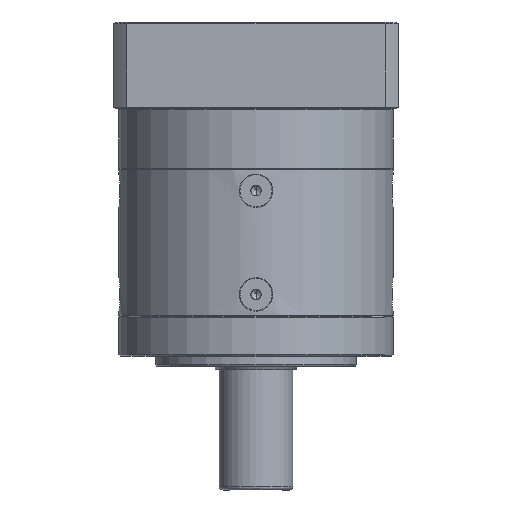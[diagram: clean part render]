
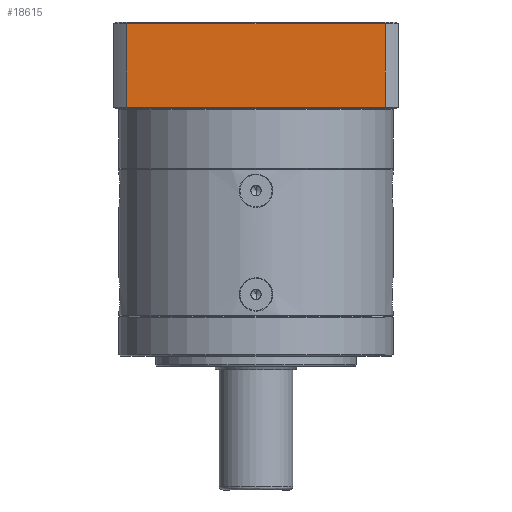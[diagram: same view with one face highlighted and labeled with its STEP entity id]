
A CAD part, front view. The second image highlights one B-rep face of the part: STEP entity #18615.
In plain terms, the highlighted planar face has unit normal (0, -1, 0).
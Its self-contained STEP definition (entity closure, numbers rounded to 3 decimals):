
#2742 = CARTESIAN_POINT ( 'NONE',  ( 24.866, -38.488, 188.002 ) ) ;
#4730 = LINE ( 'NONE', #101439, #106700 ) ;
#6417 = DIRECTION ( 'NONE',  ( 0., 0., 1. ) ) ;
#8384 = ORIENTED_EDGE ( 'NONE', *, *, #24053, .F. ) ;
#13269 = VERTEX_POINT ( 'NONE', #78962 ) ;
#15465 = AXIS2_PLACEMENT_3D ( 'NONE', #38570, #107700, #48467 ) ;
#15597 = FACE_OUTER_BOUND ( 'NONE', #123000, .T. ) ;
#18086 = LINE ( 'NONE', #115214, #67458 ) ;
#18615 = ADVANCED_FACE ( 'NONE', ( #15597 ), #127087, .F. ) ;
#23660 = EDGE_CURVE ( 'NONE', #39157, #33812, #57947, .T. ) ;
#24053 = EDGE_CURVE ( 'NONE', #33812, #13269, #105738, .T. ) ;
#26560 = CARTESIAN_POINT ( 'NONE',  ( 24.866, -38.488, 187.502 ) ) ;
#27389 = DIRECTION ( 'NONE',  ( 1., 0., 0. ) ) ;
#30533 = CARTESIAN_POINT ( 'NONE',  ( -52.594, -38.488, 162.502 ) ) ;
#33812 = VERTEX_POINT ( 'NONE', #66889 ) ;
#38570 = CARTESIAN_POINT ( 'NONE',  ( 24.866, -38.488, 188.002 ) ) ;
#39157 = VERTEX_POINT ( 'NONE', #85006 ) ;
#48467 = DIRECTION ( 'NONE',  ( -1., 0., 0. ) ) ;
#57947 = LINE ( 'NONE', #26560, #110559 ) ;
#66830 = ORIENTED_EDGE ( 'NONE', *, *, #84146, .T. ) ;
#66889 = CARTESIAN_POINT ( 'NONE',  ( 24.866, -38.488, 187.502 ) ) ;
#67458 = VECTOR ( 'NONE', #6417, 1000. ) ;
#70458 = DIRECTION ( 'NONE',  ( 0., 0., -1. ) ) ;
#70835 = ORIENTED_EDGE ( 'NONE', *, *, #118577, .F. ) ;
#76356 = VECTOR ( 'NONE', #70458, 1000. ) ;
#78962 = CARTESIAN_POINT ( 'NONE',  ( 24.866, -38.488, 162.502 ) ) ;
#84146 = EDGE_CURVE ( 'NONE', #90697, #13269, #4730, .T. ) ;
#85006 = CARTESIAN_POINT ( 'NONE',  ( -52.594, -38.488, 187.502 ) ) ;
#90697 = VERTEX_POINT ( 'NONE', #30533 ) ;
#101439 = CARTESIAN_POINT ( 'NONE',  ( 24.866, -38.488, 162.502 ) ) ;
#105738 = LINE ( 'NONE', #2742, #76356 ) ;
#106700 = VECTOR ( 'NONE', #121276, 1000. ) ;
#107700 = DIRECTION ( 'NONE',  ( 0., 1., 0. ) ) ;
#109066 = ORIENTED_EDGE ( 'NONE', *, *, #23660, .F. ) ;
#110559 = VECTOR ( 'NONE', #27389, 1000. ) ;
#115214 = CARTESIAN_POINT ( 'NONE',  ( -52.594, -38.488, 188.002 ) ) ;
#118577 = EDGE_CURVE ( 'NONE', #90697, #39157, #18086, .T. ) ;
#121276 = DIRECTION ( 'NONE',  ( 1., 0., 0. ) ) ;
#123000 = EDGE_LOOP ( 'NONE', ( #66830, #8384, #109066, #70835 ) ) ;
#127087 = PLANE ( 'NONE',  #15465 ) ;
